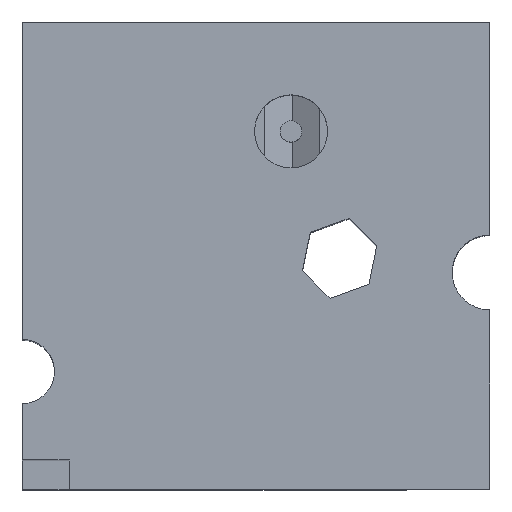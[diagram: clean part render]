
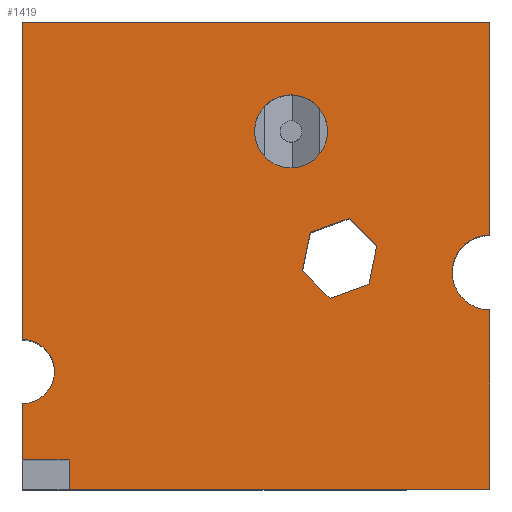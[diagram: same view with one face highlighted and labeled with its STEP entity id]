
A CAD part, top view. The second image highlights one B-rep face of the part: STEP entity #1419.
In plain terms, the highlighted planar face has unit normal (0, 0, 1).
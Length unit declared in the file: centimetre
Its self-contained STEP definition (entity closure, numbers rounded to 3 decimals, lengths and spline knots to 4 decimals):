
#1 = DIRECTION ( 'NONE',  ( 0., 0., 1. ) ) ;
#19 = VERTEX_POINT ( 'NONE', #395 ) ;
#20 = DIRECTION ( 'NONE',  ( 1., 0., 0. ) ) ;
#37 = ORIENTED_EDGE ( 'NONE', *, *, #885, .T. ) ;
#63 = CARTESIAN_POINT ( 'NONE',  ( 0., 320.5667, 1000. ) ) ;
#74 = CARTESIAN_POINT ( 'NONE',  ( 699.2057, 579.814, 1000. ) ) ;
#88 = CARTESIAN_POINT ( 'NONE',  ( 0., 62.4829, 1000. ) ) ;
#94 = VECTOR ( 'NONE', #1048, 100. ) ;
#110 = ORIENTED_EDGE ( 'NONE', *, *, #1301, .T. ) ;
#127 = VERTEX_POINT ( 'NONE', #690 ) ;
#141 = CARTESIAN_POINT ( 'NONE',  ( 658.4984, 408.4657, 1000. ) ) ;
#173 = ORIENTED_EDGE ( 'NONE', *, *, #1330, .T. ) ;
#175 = DIRECTION ( 'NONE',  ( 0., 1., 0. ) ) ;
#187 = VERTEX_POINT ( 'NONE', #141 ) ;
#200 = CARTESIAN_POINT ( 'NONE',  ( 599.3359, 467.6282, 1000. ) ) ;
#209 = ORIENTED_EDGE ( 'NONE', *, *, #350, .F. ) ;
#222 = EDGE_CURVE ( 'NONE', #887, #474, #461, .T. ) ;
#224 = DIRECTION ( 'NONE',  ( 0.94, 0.34, 0. ) ) ;
#230 = EDGE_CURVE ( 'NONE', #733, #1672, #1530, .T. ) ;
#268 = VECTOR ( 'NONE', #536, 100. ) ;
#269 = VECTOR ( 'NONE', #943, 100. ) ;
#278 = LINE ( 'NONE', #1742, #269 ) ;
#282 = CARTESIAN_POINT ( 'NONE',  ( 0., 1000., 1000. ) ) ;
#288 = ORIENTED_EDGE ( 'NONE', *, *, #534, .F. ) ;
#291 = DIRECTION ( 'NONE',  ( 0., 0., 1. ) ) ;
#300 = VECTOR ( 'NONE', #1036, 100. ) ;
#313 = VERTEX_POINT ( 'NONE', #1664 ) ;
#324 = DIRECTION ( 'NONE',  ( 1., 0., 0. ) ) ;
#338 = VERTEX_POINT ( 'NONE', #88 ) ;
#350 = EDGE_CURVE ( 'NONE', #187, #631, #1457, .T. ) ;
#355 = CARTESIAN_POINT ( 'NONE',  ( 1000., 1000., 1000. ) ) ;
#373 = DIRECTION ( 'NONE',  ( -1., 0., 0. ) ) ;
#379 = EDGE_CURVE ( 'NONE', #474, #1359, #1055, .T. ) ;
#380 = EDGE_CURVE ( 'NONE', #494, #1716, #1018, .T. ) ;
#392 = VECTOR ( 'NONE', #646, 100. ) ;
#395 = CARTESIAN_POINT ( 'NONE',  ( 1000., 0., 1000. ) ) ;
#406 = LINE ( 'NONE', #1734, #268 ) ;
#417 = CARTESIAN_POINT ( 'NONE',  ( 100.1053, 62.4829, 1000. ) ) ;
#422 = CARTESIAN_POINT ( 'NONE',  ( 574.9982, 765.8828, 1000. ) ) ;
#447 = VERTEX_POINT ( 'NONE', #63 ) ;
#451 = CARTESIAN_POINT ( 'NONE',  ( 1000., 1000., 1000. ) ) ;
#461 = LINE ( 'NONE', #451, #1760 ) ;
#466 = CARTESIAN_POINT ( 'NONE',  ( 0., 0., 1000. ) ) ;
#468 = EDGE_CURVE ( 'NONE', #1027, #313, #492, .T. ) ;
#472 = CARTESIAN_POINT ( 'NONE',  ( 0., 62.4829, 1000. ) ) ;
#474 = VERTEX_POINT ( 'NONE', #355 ) ;
#492 = LINE ( 'NONE', #74, #300 ) ;
#493 = EDGE_CURVE ( 'NONE', #313, #1163, #656, .T. ) ;
#494 = VERTEX_POINT ( 'NONE', #1603 ) ;
#496 = CARTESIAN_POINT ( 'NONE',  ( 1000., 543.9846, 1000. ) ) ;
#517 = LINE ( 'NONE', #533, #392 ) ;
#528 = EDGE_LOOP ( 'NONE', ( #1398, #1554 ) ) ;
#533 = CARTESIAN_POINT ( 'NONE',  ( 599.3359, 467.6282, 1000. ) ) ;
#534 = EDGE_CURVE ( 'NONE', #1163, #187, #517, .T. ) ;
#536 = DIRECTION ( 'NONE',  ( 0.2, 0.98, 0. ) ) ;
#573 = FACE_BOUND ( 'NONE', #1535, .T. ) ;
#582 = VECTOR ( 'NONE', #906, 100. ) ;
#586 = EDGE_CURVE ( 'NONE', #631, #127, #406, .T. ) ;
#617 = DIRECTION ( 'NONE',  ( -1., 0., 0. ) ) ;
#631 = VERTEX_POINT ( 'NONE', #1599 ) ;
#643 = LINE ( 'NONE', #1169, #94 ) ;
#646 = DIRECTION ( 'NONE',  ( 0.707, -0.707, 0. ) ) ;
#656 = LINE ( 'NONE', #937, #1645 ) ;
#662 = EDGE_CURVE ( 'NONE', #887, #839, #736, .T. ) ;
#671 = CARTESIAN_POINT ( 'NONE',  ( 496.9375, 765.8828, 1000. ) ) ;
#690 = CARTESIAN_POINT ( 'NONE',  ( 758.3682, 520.6515, 1000. ) ) ;
#695 = EDGE_LOOP ( 'NONE', ( #1296, #1131, #1590, #1458, #1741, #173, #1449, #1038, #37, #110 ) ) ;
#709 = CARTESIAN_POINT ( 'NONE',  ( 653.059, 765.8828, 1000. ) ) ;
#733 = VERTEX_POINT ( 'NONE', #709 ) ;
#736 = CIRCLE ( 'NONE', #1733, 80.0842 ) ;
#737 = VECTOR ( 'NONE', #1024, 100. ) ;
#741 = CARTESIAN_POINT ( 'NONE',  ( 1000., 383.8162, 1000. ) ) ;
#783 = CARTESIAN_POINT ( 'NONE',  ( 100.1053, 0., 1000. ) ) ;
#816 = VECTOR ( 'NONE', #373, 100. ) ;
#825 = EDGE_CURVE ( 'NONE', #1716, #338, #1553, .T. ) ;
#839 = VERTEX_POINT ( 'NONE', #741 ) ;
#840 = VECTOR ( 'NONE', #1181, 100. ) ;
#865 = CARTESIAN_POINT ( 'NONE',  ( 0., 251.9568, 1000. ) ) ;
#868 = EDGE_CURVE ( 'NONE', #1359, #447, #643, .T. ) ;
#879 = AXIS2_PLACEMENT_3D ( 'NONE', #422, #1391, #324 ) ;
#880 = VECTOR ( 'NONE', #617, 100. ) ;
#884 = CARTESIAN_POINT ( 'NONE',  ( 0., 1000., 1000. ) ) ;
#885 = EDGE_CURVE ( 'NONE', #494, #19, #1726, .T. ) ;
#887 = VERTEX_POINT ( 'NONE', #496 ) ;
#891 = CARTESIAN_POINT ( 'NONE',  ( 1000., 1000., 1000. ) ) ;
#906 = DIRECTION ( 'NONE',  ( 0., -1., 0. ) ) ;
#922 = DIRECTION ( 'NONE',  ( 0., 1., 0. ) ) ;
#926 = LINE ( 'NONE', #891, #840 ) ;
#937 = CARTESIAN_POINT ( 'NONE',  ( 616.1342, 549.747, 1000. ) ) ;
#943 = DIRECTION ( 'NONE',  ( -0.707, 0.707, 0. ) ) ;
#955 = CARTESIAN_POINT ( 'NONE',  ( 699.2057, 579.814, 1000. ) ) ;
#998 = CARTESIAN_POINT ( 'NONE',  ( 574.9982, 765.8828, 1000. ) ) ;
#1002 = ORIENTED_EDGE ( 'NONE', *, *, #1029, .F. ) ;
#1017 = ORIENTED_EDGE ( 'NONE', *, *, #586, .F. ) ;
#1018 = LINE ( 'NONE', #783, #1280 ) ;
#1023 = VECTOR ( 'NONE', #224, 100. ) ;
#1024 = DIRECTION ( 'NONE',  ( 1., 0., 0. ) ) ;
#1027 = VERTEX_POINT ( 'NONE', #955 ) ;
#1029 = EDGE_CURVE ( 'NONE', #127, #1027, #278, .T. ) ;
#1036 = DIRECTION ( 'NONE',  ( -0.94, -0.34, 0. ) ) ;
#1038 = ORIENTED_EDGE ( 'NONE', *, *, #380, .F. ) ;
#1048 = DIRECTION ( 'NONE',  ( 0., -1., 0. ) ) ;
#1053 = AXIS2_PLACEMENT_3D ( 'NONE', #865, #1139, #1682 ) ;
#1055 = LINE ( 'NONE', #884, #816 ) ;
#1110 = EDGE_CURVE ( 'NONE', #447, #1777, #1248, .T. ) ;
#1131 = ORIENTED_EDGE ( 'NONE', *, *, #222, .T. ) ;
#1139 = DIRECTION ( 'NONE',  ( 0., 0., -1. ) ) ;
#1161 = AXIS2_PLACEMENT_3D ( 'NONE', #998, #291, #1543 ) ;
#1163 = VERTEX_POINT ( 'NONE', #200 ) ;
#1169 = CARTESIAN_POINT ( 'NONE',  ( 0., 1000., 1000. ) ) ;
#1172 = PLANE ( 'NONE',  #1558 ) ;
#1181 = DIRECTION ( 'NONE',  ( 0., 1., 0. ) ) ;
#1199 = CARTESIAN_POINT ( 'NONE',  ( 1000., 463.9004, 1000. ) ) ;
#1247 = FACE_OUTER_BOUND ( 'NONE', #695, .T. ) ;
#1248 = CIRCLE ( 'NONE', #1053, 68.6099 ) ;
#1280 = VECTOR ( 'NONE', #922, 100. ) ;
#1296 = ORIENTED_EDGE ( 'NONE', *, *, #662, .F. ) ;
#1301 = EDGE_CURVE ( 'NONE', #19, #839, #926, .T. ) ;
#1330 = EDGE_CURVE ( 'NONE', #1777, #338, #1438, .T. ) ;
#1358 = DIRECTION ( 'NONE',  ( 0., 0., 1. ) ) ;
#1359 = VERTEX_POINT ( 'NONE', #282 ) ;
#1391 = DIRECTION ( 'NONE',  ( 0., 0., 1. ) ) ;
#1394 = ORIENTED_EDGE ( 'NONE', *, *, #493, .F. ) ;
#1398 = ORIENTED_EDGE ( 'NONE', *, *, #230, .F. ) ;
#1419 = ADVANCED_FACE ( 'NONE', ( #1522, #1247, #573 ), #1172, .T. ) ;
#1438 = LINE ( 'NONE', #1586, #582 ) ;
#1449 = ORIENTED_EDGE ( 'NONE', *, *, #825, .F. ) ;
#1457 = LINE ( 'NONE', #1597, #1023 ) ;
#1458 = ORIENTED_EDGE ( 'NONE', *, *, #868, .T. ) ;
#1465 = EDGE_CURVE ( 'NONE', #1672, #733, #1472, .T. ) ;
#1472 = CIRCLE ( 'NONE', #1161, 78.0608 ) ;
#1522 = FACE_BOUND ( 'NONE', #528, .T. ) ;
#1530 = CIRCLE ( 'NONE', #879, 78.0608 ) ;
#1535 = EDGE_LOOP ( 'NONE', ( #1017, #209, #288, #1394, #1732, #1002 ) ) ;
#1543 = DIRECTION ( 'NONE',  ( 1., 0., 0. ) ) ;
#1553 = LINE ( 'NONE', #472, #880 ) ;
#1554 = ORIENTED_EDGE ( 'NONE', *, *, #1465, .F. ) ;
#1558 = AXIS2_PLACEMENT_3D ( 'NONE', #1713, #1, #20 ) ;
#1586 = CARTESIAN_POINT ( 'NONE',  ( 0., 1000., 1000. ) ) ;
#1590 = ORIENTED_EDGE ( 'NONE', *, *, #379, .T. ) ;
#1597 = CARTESIAN_POINT ( 'NONE',  ( 658.4984, 408.4657, 1000. ) ) ;
#1599 = CARTESIAN_POINT ( 'NONE',  ( 741.5698, 438.5327, 1000. ) ) ;
#1603 = CARTESIAN_POINT ( 'NONE',  ( 100.1053, 0., 1000. ) ) ;
#1615 = DIRECTION ( 'NONE',  ( 1., 0., 0. ) ) ;
#1645 = VECTOR ( 'NONE', #1746, 100. ) ;
#1664 = CARTESIAN_POINT ( 'NONE',  ( 616.1342, 549.747, 1000. ) ) ;
#1672 = VERTEX_POINT ( 'NONE', #671 ) ;
#1682 = DIRECTION ( 'NONE',  ( -1., 0., 0. ) ) ;
#1713 = CARTESIAN_POINT ( 'NONE',  ( 0., 0., 1000. ) ) ;
#1716 = VERTEX_POINT ( 'NONE', #417 ) ;
#1726 = LINE ( 'NONE', #466, #737 ) ;
#1732 = ORIENTED_EDGE ( 'NONE', *, *, #468, .F. ) ;
#1733 = AXIS2_PLACEMENT_3D ( 'NONE', #1199, #1358, #1615 ) ;
#1734 = CARTESIAN_POINT ( 'NONE',  ( 741.5698, 438.5327, 1000. ) ) ;
#1741 = ORIENTED_EDGE ( 'NONE', *, *, #1110, .T. ) ;
#1742 = CARTESIAN_POINT ( 'NONE',  ( 758.3682, 520.6515, 1000. ) ) ;
#1746 = DIRECTION ( 'NONE',  ( -0.2, -0.98, 0. ) ) ;
#1760 = VECTOR ( 'NONE', #175, 100. ) ;
#1769 = CARTESIAN_POINT ( 'NONE',  ( 0., 183.3469, 1000. ) ) ;
#1777 = VERTEX_POINT ( 'NONE', #1769 ) ;
